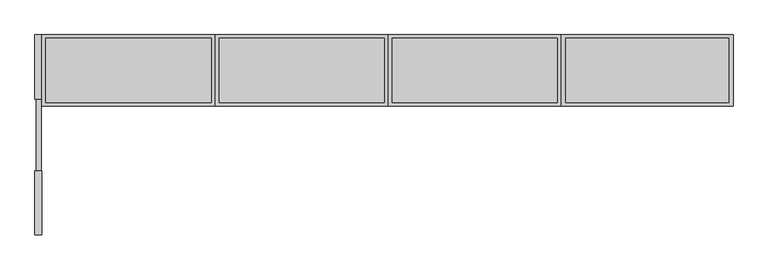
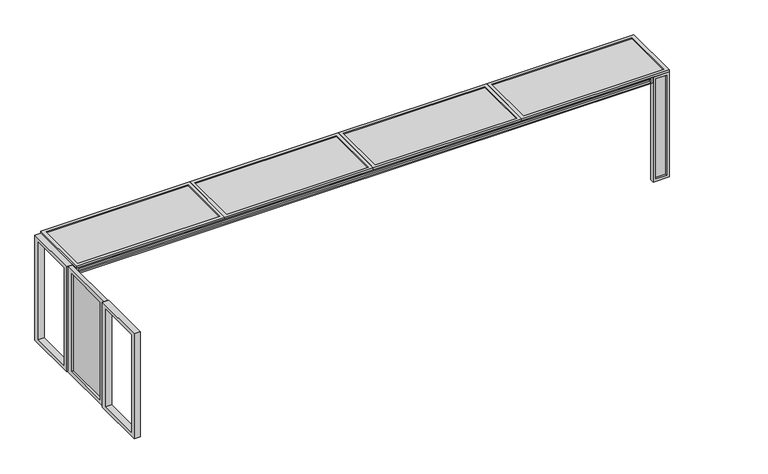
"""IFC4 building model written with IfcOpenShell, lengths in millimetres: beam geometry, Inside containment only config-5 : Inside containment only config-5."""

from ifc_helpers import new_model, si_unit, frame, origin, place, context, project, spatial, polyline, outline, extrude, source, transform, mapped, element, save


def beam_d660065f(model_context):
    return source(origin(), model_context, "Body", "SweptSolid", [
        extrude(outline(polyline([(-2019.1135452, 2530.9090286), (-976.1135452, 2530.9090286), (-976.1135452, 421.9090286), (-2019.1135452, 421.9090286), (-2019.1135452, 2530.9090286)]), holes=[polyline([(-1917.1135452, 2454.9090286), (-1917.1135452, 497.9090286), (-1078.1135452, 497.9090286), (-1078.1135452, 2454.9090286), (-1917.1135452, 2454.9090286)])]), frame((2589.1066846, 0.0, 0.0), z_axis=(1.0, 0.0, 0.0), x_axis=(0.0, 1.0, 0.0)), (0.0, 0.0, 1.0), 114.3),
        extrude(outline(polyline([(196.8609665, 2530.9090286), (1244.8609665, 2530.9090286), (1244.8609665, 421.9090286), (196.8609665, 421.9090286), (196.8609665, 2530.9090286)]), holes=[polyline([(298.8609665, 2454.9090286), (298.8609665, 497.9090286), (1142.8609665, 497.9090286), (1142.8609665, 2454.9090286), (298.8609665, 2454.9090286)])]), frame((2589.1066846, 0.0, 0.0), z_axis=(1.0, 0.0, 0.0), x_axis=(0.0, 1.0, 0.0)), (0.0, 0.0, 1.0), 114.3),
        extrude(outline(polyline([(13603.4066846, 123.8609665), (2753.4066846, 123.8609665), (2753.4066846, 161.8609665), (13603.4066846, 161.8609665), (13603.4066846, 123.8609665)])), frame((0.0, 0.0, 2438.2680669), z_axis=(0.0, 0.0, 1.0), x_axis=(1.0, 0.0, 0.0)), (0.0, 0.0, 1.0), 68.0),
        extrude(outline(polyline([(2531.2680669, 13653.4066846), (2531.2680669, 2703.4066846), (2413.2680669, 2703.4066846), (2413.2680669, 13653.4066846), (2531.2680669, 13653.4066846)]), holes=[polyline([(2506.2680669, 13603.4066846), (2438.2680669, 13603.4066846), (2438.2680669, 2753.4066846), (2506.2680669, 2753.4066846), (2506.2680669, 13603.4066846)])]), frame((0.0, 85.8609665, 0.0), z_axis=(0.0, 1.0, 0.0), x_axis=(0.0, 0.0, 1.0)), (0.0, 0.0, 1.0), 76.0),
        extrude(outline(polyline([(2649.751346, -854.0140335), (2649.751346, 74.9859665), (2690.751346, 74.9859665), (2690.751346, -854.0140335), (2649.751346, -854.0140335)])), frame((0.0, 0.0, 497.8988667), z_axis=(0.0, 0.0, 1.0), x_axis=(1.0, 0.0, 0.0)), (0.0, 0.0, 1.0), 1957.0),
        extrude(outline(polyline([(-976.0140335, 2530.8988667), (196.9859665, 2530.8988667), (196.9859665, 421.8988667), (-976.0140335, 421.8988667), (-976.0140335, 2530.8988667)]), holes=[polyline([(-854.0140335, 2454.8988667), (-854.0140335, 497.8988667), (74.9859665, 497.8988667), (74.9859665, 2454.8988667), (-854.0140335, 2454.8988667)])]), frame((2608.751346, 0.0, 0.0), z_axis=(1.0, 0.0, 0.0), x_axis=(0.0, 1.0, 0.0)), (0.0, 0.0, 1.0), 82.0),
        extrude(outline(polyline([(13885.4066846, 1186.8609665), (13885.4066846, 143.8609665), (11226.9066846, 143.8609665), (11226.9066846, 1186.8609665), (13885.4066846, 1186.8609665)])), frame((0.0, 0.0, 2531.2680669), z_axis=(0.0, 0.0, 1.0), x_axis=(1.0, 0.0, 0.0)), (0.0, 0.0, 1.0), 19.0),
        extrude(outline(polyline([(13953.4066846, 1244.8609665), (13953.4066846, 85.8609665), (11158.9066846, 85.8609665), (11158.9066846, 1244.8609665), (13953.4066846, 1244.8609665)]), holes=[polyline([(13885.4066846, 1186.8609665), (11226.9066846, 1186.8609665), (11226.9066846, 143.8609665), (13885.4066846, 143.8609665), (13885.4066846, 1186.8609665)])]), frame((0.0, 0.0, 2531.2680669), z_axis=(0.0, 0.0, 1.0), x_axis=(1.0, 0.0, 0.0)), (0.0, 0.0, 1.0), 38.0),
        extrude(outline(polyline([(11093.9066846, 1186.8609665), (11093.9066846, 143.8609665), (8407.4066846, 143.8609665), (8407.4066846, 1186.8609665), (11093.9066846, 1186.8609665)])), frame((0.0, 0.0, 2531.2680669), z_axis=(0.0, 0.0, 1.0), x_axis=(1.0, 0.0, 0.0)), (0.0, 0.0, 1.0), 19.0),
        extrude(outline(polyline([(11158.9066846, 1244.8609665), (11158.9066846, 85.8609665), (8342.4066846, 85.8609665), (8342.4066846, 1244.8609665), (11158.9066846, 1244.8609665)]), holes=[polyline([(11093.9066846, 1186.8609665), (8407.4066846, 1186.8609665), (8407.4066846, 143.8609665), (11093.9066846, 143.8609665), (11093.9066846, 1186.8609665)])]), frame((0.0, 0.0, 2531.2680669), z_axis=(0.0, 0.0, 1.0), x_axis=(1.0, 0.0, 0.0)), (0.0, 0.0, 1.0), 38.0),
        extrude(outline(polyline([(8277.4066846, 1186.8609665), (8277.4066846, 143.8609665), (5590.9066846, 143.8609665), (5590.9066846, 1186.8609665), (8277.4066846, 1186.8609665)])), frame((0.0, 0.0, 2531.2680669), z_axis=(0.0, 0.0, 1.0), x_axis=(1.0, 0.0, 0.0)), (0.0, 0.0, 1.0), 19.0),
        extrude(outline(polyline([(8342.4066846, 1244.8609665), (8342.4066846, 85.8609665), (5525.9066846, 85.8609665), (5525.9066846, 1244.8609665), (8342.4066846, 1244.8609665)]), holes=[polyline([(8277.4066846, 1186.8609665), (5590.9066846, 1186.8609665), (5590.9066846, 143.8609665), (8277.4066846, 143.8609665), (8277.4066846, 1186.8609665)])]), frame((0.0, 0.0, 2531.2680669), z_axis=(0.0, 0.0, 1.0), x_axis=(1.0, 0.0, 0.0)), (0.0, 0.0, 1.0), 38.0),
        extrude(outline(polyline([(5460.9066846, 1186.8609665), (5460.9066846, 143.8609665), (2768.4066846, 143.8609665), (2768.4066846, 1186.8609665), (5460.9066846, 1186.8609665)])), frame((0.0, 0.0, 2531.2680669), z_axis=(0.0, 0.0, 1.0), x_axis=(1.0, 0.0, 0.0)), (0.0, 0.0, 1.0), 19.0),
        extrude(outline(polyline([(5525.9066846, 1244.8609665), (5525.9066846, 85.8609665), (2703.4066846, 85.8609665), (2703.4066846, 1244.8609665), (5525.9066846, 1244.8609665)]), holes=[polyline([(5460.9066846, 1186.8609665), (2768.4066846, 1186.8609665), (2768.4066846, 143.8609665), (5460.9066846, 143.8609665), (5460.9066846, 1186.8609665)])]), frame((0.0, 0.0, 2531.2680669), z_axis=(0.0, 0.0, 1.0), x_axis=(1.0, 0.0, 0.0)), (0.0, 0.0, 1.0), 38.0),
        extrude(outline(polyline([(13907.4066846, 123.9609665), (13699.4066846, 123.9609665), (13699.4066846, 162.0609665), (13907.4066846, 162.0609665), (13907.4066846, 123.9609665)])), frame((0.0, 0.0, 473.2680669), z_axis=(0.0, 0.0, 1.0), x_axis=(1.0, 0.0, 0.0)), (0.0, 0.0, 1.0), 2007.0),
        extrude(outline(polyline([(2531.2680669, 13953.4066846), (2531.2680669, 13653.4066846), (422.2680669, 13653.4066846), (422.2680669, 13953.4066846), (2531.2680669, 13953.4066846)]), holes=[polyline([(2480.2680669, 13907.4066846), (473.2680669, 13907.4066846), (473.2680669, 13699.4066846), (2480.2680669, 13699.4066846), (2480.2680669, 13907.4066846)])]), frame((0.0, 85.8609665, 0.0), z_axis=(0.0, 1.0, 0.0), x_axis=(0.0, 0.0, 1.0)), (0.0, 0.0, 1.0), 76.2),
        extrude(outline(polyline([(2703.2406689, 178.0609665), (2691.0450309, 178.0609665), (2691.0450309, 196.3502894), (2703.2406689, 196.3502894), (2703.2406689, 178.0609665)])), frame((0.0, 0.0, 422.0), z_axis=(0.0, 0.0, 1.0), x_axis=(1.0, 0.0, 0.0)), (0.0, 0.0, 1.0), 2109.0),
    ])


if __name__ == "__main__":
    model = new_model("IFC4")
    model_context = context("Model", 3, world=origin())
    ifc_project = project(units=[si_unit("LENGTHUNIT", "METRE", prefix="MILLI")], contexts=[model_context])
    site = spatial("IfcSite", under=ifc_project)
    building = spatial("IfcBuilding", under=site)
    placement = place(None, origin())
    beam_shape = beam_d660065f(model_context)
    element("IfcBeam", 1, ObjectType="Inside containment only config-5 : Inside containment only config-5", at=placement, inside=building, context=model_context, shape_type="MappedRepresentation", body=[
        mapped(beam_shape, transform((0.0, 0.0, 0.0), x_axis=(1.0, 0.0, 0.0), y_axis=(0.0, 1.0, 0.0), z_axis=(0.0, 0.0, 1.0))),
    ])
    save(model, "model.ifc")
